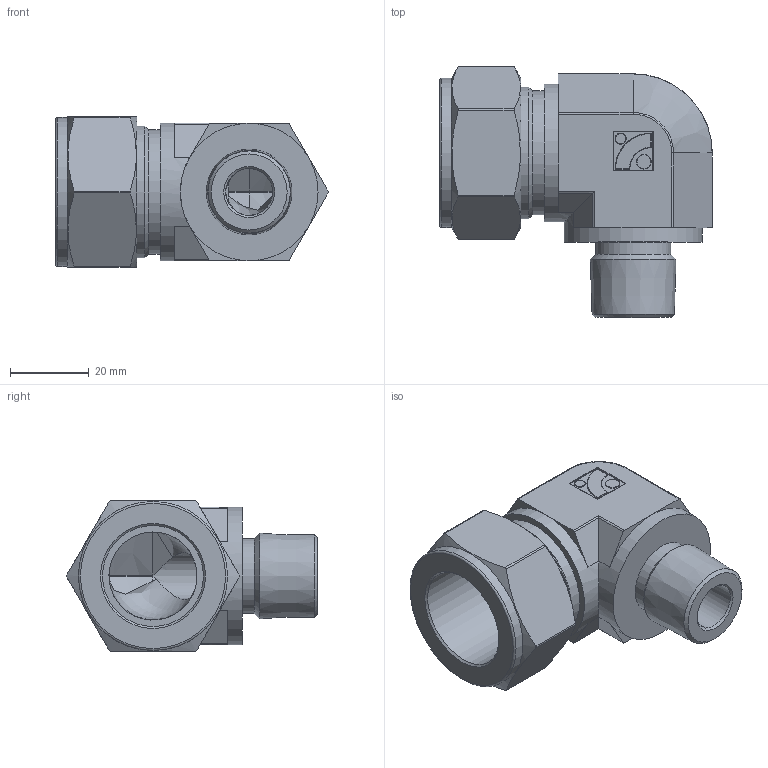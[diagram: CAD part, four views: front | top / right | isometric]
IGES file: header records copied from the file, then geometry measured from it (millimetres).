
Global section: file name: No Iges File Name specified; native system: Autodesk Inventor 2012; preprocessor: AutoDesk Inventor Iges Exporter R2012; author: 硅己绕,, ; organization: 11; date: 20150703.114453; units: millimetre
Bounding box: 69.13 x 63.62 x 38.1 mm (x, y, z)
Volume: 55288 mm3; surface area: 16960.8 mm2
Topology: 1 solids, 1 shells, 130 faces, 292 edges, 169 vertices
Faces by surface type: plane 42, cylinder 35, revolution 29, torus 12, cone 8, sphere 4
Full cylindrical faces by diameter (mm): 2.7 x1, 3.6 x1, 19 x1, 31.45 x1, 33.34 x1, 34.9 x2, 37.8 x1
